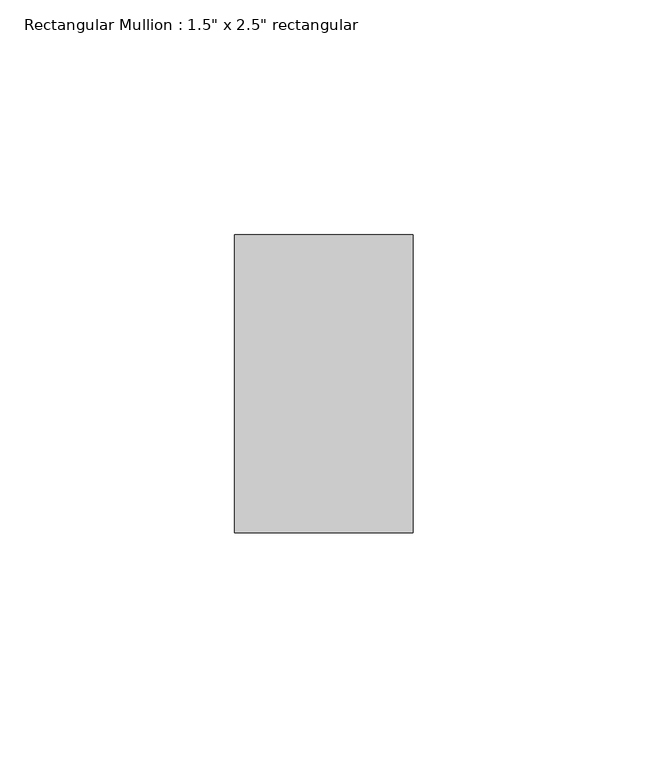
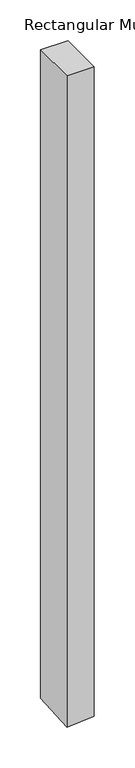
"""IFC4 building model written with IfcOpenShell, lengths in millimetres: member geometry."""

from ifc_helpers import new_model, si_unit, origin, place, context, project, spatial, faceted_brep, source, transform, mapped, element, save


def member_e949c9f9(model_context):
    return source(origin(), model_context, "Body", "Brep", [
        faceted_brep([(0.0, 31.75, 0.0), (-38.1, 31.75, 0.0), (-38.1, -31.75, 0.0), (0.0, -31.75, 0.0), (0.0, 31.75, -963.1600184), (-38.1, 31.75, -965.7248009), (-38.1, -31.75, -970.0188535), (0.0, -31.75, -967.454071)], [[[0, 1, 2, 3]], [[1, 0, 4, 5]], [[2, 1, 5, 6]], [[3, 2, 6, 7]], [[0, 3, 7, 4]], [[4, 7, 6, 5]]]),
    ])


if __name__ == "__main__":
    model = new_model("IFC4")
    model_context = context("Model", 3, world=origin())
    ifc_project = project(units=[si_unit("LENGTHUNIT", "METRE", prefix="MILLI")], contexts=[model_context])
    site = spatial("IfcSite", under=ifc_project)
    building = spatial("IfcBuilding", under=site)
    placement = place(None, origin())
    member_shape = member_e949c9f9(model_context)
    element("IfcMember", 1, ObjectType="Rectangular Mullion : 1.5\" x 2.5\" rectangular", at=placement, inside=building, context=model_context, shape_type="MappedRepresentation", body=[
        mapped(member_shape, transform((0.0, 0.0, 0.0), x_axis=(1.0, 0.0, 0.0), y_axis=(0.0, 1.0, 0.0), z_axis=(0.0, 0.0, 1.0))),
    ])
    save(model, "model.ifc")
